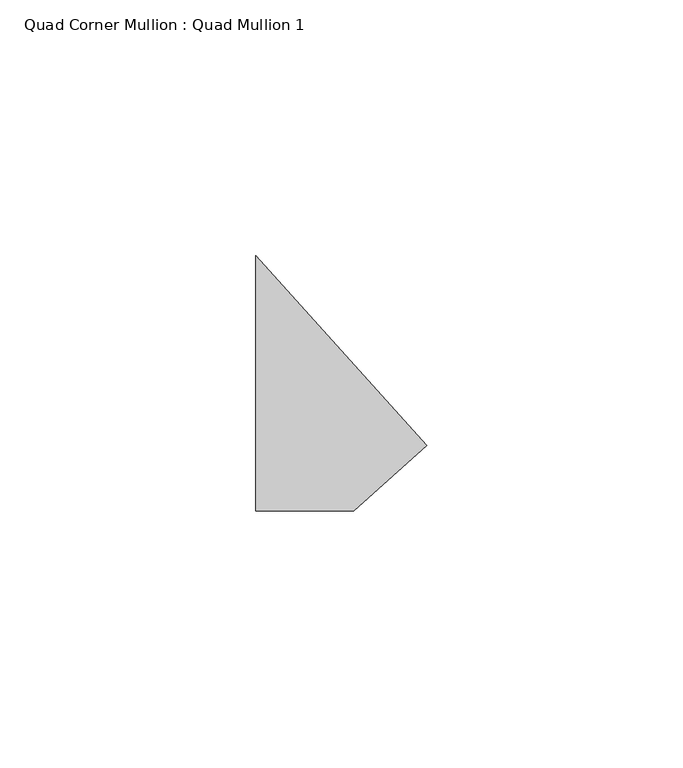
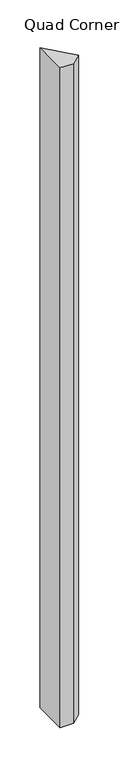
"""IFC4 building model written with IfcOpenShell, lengths in millimetres: member geometry, Quad Corner Mullion : Quad Mullion 1."""

import ifcopenshell
import ifcopenshell.guid

model = None  # the IFC model being written
_history = None  # IfcOwnerHistory: only IFC2X3 demands one
_inside = {}  # id of a spatial element -> (the spatial element, [elements in it])
_under = {}  # id of a project, library or spatial element -> (it, [spatial elements below it])
_declared = {}  # id of a project -> (the project, [libraries it declares])
_typed = {}  # id of a type object -> (the type object, [elements of that type])
_made_of = {}  # id of a material, layer set ... -> (it, [elements and type objects made of it])


def new_model(schema):
    """Start an empty IFC model of exactly this schema.

    Asked for "IFC4X3", IfcOpenShell would pick the latest addendum, in which some entities
    have other attributes; the version numbers below select the first issue.
    IFC2X3 requires an IfcOwnerHistory on every rooted entity: one is made here for all.
    """
    global model, _history
    if schema == "IFC4X3":
        model = ifcopenshell.file(schema_version=(4, 3, 0, 0))
    else:
        model = ifcopenshell.file(schema=schema)
    _inside.clear()
    _under.clear()
    _declared.clear()
    _typed.clear()
    _made_of.clear()
    _history = None
    if model.schema == "IFC2X3":
        org = make("IfcOrganization", Name="unknown")
        user = make(
            "IfcPersonAndOrganization",
            ThePerson=make("IfcPerson", FamilyName="unknown"),
            TheOrganization=org,
        )
        app = make(
            "IfcApplication",
            ApplicationDeveloper=org,
            Version="unknown",
            ApplicationFullName="unknown",
            ApplicationIdentifier="unknown",
        )
        _history = make(
            "IfcOwnerHistory",
            OwningUser=user,
            OwningApplication=app,
            ChangeAction="ADDED",
            CreationDate=0,
        )
    return model


def make(cls, **values):
    """One entity of the class cls with the attributes given. An attribute that is None is left unset."""
    return model.create_entity(
        cls, **{name: value for name, value in values.items() if value is not None}
    )


def rooted(cls, **values):
    """An entity with a GlobalId (a new one), such as an element, a storey or a relation."""
    return make(cls, GlobalId=ifcopenshell.guid.new(), OwnerHistory=_history, **values)


def si_unit(unit_type, name, prefix=None):
    """IfcSIUnit, for example si_unit("LENGTHUNIT", "METRE", prefix="MILLI")."""
    return make("IfcSIUnit", UnitType=unit_type, Prefix=prefix, Name=name)


def assignment(units):
    """IfcUnitAssignment: the units of a project."""
    return None if units is None else make("IfcUnitAssignment", Units=units)


def point(xyz):
    """IfcCartesianPoint."""
    return None if xyz is None else make("IfcCartesianPoint", Coordinates=xyz)


def direction(xyz):
    """IfcDirection."""
    return None if xyz is None else make("IfcDirection", DirectionRatios=xyz)


def frame(location, z_axis=None, x_axis=None):
    """IfcAxis2Placement3D, a coordinate frame: its origin and axes. An axis left out is left unset."""
    return make(
        "IfcAxis2Placement3D",
        Location=point(location),
        Axis=direction(z_axis),
        RefDirection=direction(x_axis),
    )


def origin():
    """The frame at (0, 0, 0) with its axes left unset."""
    return frame((0.0, 0.0, 0.0))


def place(relative_to, where):
    """IfcLocalPlacement: puts the frame where relative to a parent placement (None: the world)."""
    return make(
        "IfcLocalPlacement", PlacementRelTo=relative_to, RelativePlacement=where
    )


def context(
    kind, dimensions, precision=None, world=None, true_north=None, identifier=None
):
    """IfcGeometricRepresentationContext, for example the 3D "Model" context."""
    return make(
        "IfcGeometricRepresentationContext",
        ContextIdentifier=identifier,
        ContextType=kind,
        CoordinateSpaceDimension=dimensions,
        Precision=precision,
        WorldCoordinateSystem=world,
        TrueNorth=true_north,
    )


def project(units=None, contexts=None):
    """IfcProject with its units and contexts."""
    return rooted(
        "IfcProject",
        Name="project",
        RepresentationContexts=contexts,
        UnitsInContext=assignment(units),
    )


def spatial(cls, under=None, at=None, **own):
    """A site, building, storey or space (cls), placed at a placement, below another one or the project."""
    s = rooted(cls, ObjectPlacement=at, **own)
    if under is not None:
        _under.setdefault(under.id(), (under, []))[1].append(s)
    return s


def polyline(points):
    """IfcPolyline through the points."""
    return make("IfcPolyline", Points=[point(p) for p in points])


def outline(outer, holes=None, kind="AREA"):
    """IfcArbitraryClosedProfileDef: a profile drawn as a closed curve; with holes, ...WithVoids."""
    if holes is None:
        return make("IfcArbitraryClosedProfileDef", ProfileType=kind, OuterCurve=outer)
    return make(
        "IfcArbitraryProfileDefWithVoids",
        ProfileType=kind,
        OuterCurve=outer,
        InnerCurves=holes,
    )


def extrude(swept, where, along, depth):
    """IfcExtrudedAreaSolid: the profile swept, set in the frame where, extruded along a direction by depth."""
    return make(
        "IfcExtrudedAreaSolid",
        SweptArea=swept,
        Position=where,
        ExtrudedDirection=direction(along),
        Depth=depth,
    )


def shape(context_of_items, identifier, shape_type, items):
    """IfcShapeRepresentation: the items that make up one representation, for example the "Body"."""
    return make(
        "IfcShapeRepresentation",
        ContextOfItems=context_of_items,
        RepresentationIdentifier=identifier,
        RepresentationType=shape_type,
        Items=items,
    )


def source(mapping_origin, context_of_items, identifier, shape_type, items):
    """IfcRepresentationMap: a shape defined once, which mapped items show again and again."""
    return make(
        "IfcRepresentationMap",
        MappingOrigin=mapping_origin,
        MappedRepresentation=shape(context_of_items, identifier, shape_type, items),
    )


def transform(
    local_origin,
    x_axis=None,
    y_axis=None,
    z_axis=None,
    scale=None,
    scale2=None,
    scale3=None,
    uniform=True,
):
    """IfcCartesianTransformationOperator3D, or its non-uniform kind. x_axis, y_axis, z_axis: its Axis1, 2, 3."""
    if uniform:
        return make(
            "IfcCartesianTransformationOperator3D",
            Axis1=direction(x_axis),
            Axis2=direction(y_axis),
            LocalOrigin=point(local_origin),
            Scale=scale,
            Axis3=direction(z_axis),
        )
    return make(
        "IfcCartesianTransformationOperator3DnonUniform",
        Axis1=direction(x_axis),
        Axis2=direction(y_axis),
        LocalOrigin=point(local_origin),
        Scale=scale,
        Axis3=direction(z_axis),
        Scale2=scale2,
        Scale3=scale3,
    )


def mapped(mapping_source, mapping_target):
    """IfcMappedItem: shows the shape of a source again, moved by a transform."""
    return make(
        "IfcMappedItem", MappingSource=mapping_source, MappingTarget=mapping_target
    )


def made_of(thing, what):
    """Note that an element or type object is made of a material, layer set ...; save() writes the relation."""
    if what is not None:
        _made_of.setdefault(what.id(), (what, []))[1].append(thing)
    return thing


def element(
    cls,
    number,
    at=None,
    inside=None,
    cuts=None,
    type_object=None,
    material=None,
    context=None,
    identifier="Body",
    shape_type=None,
    held_by="IfcProductDefinitionShape",
    body=None,
    shapes=None,
    **own,
):
    """One element of the class cls, such as IfcWall. Its Tag is "e" and its number.

    at: its placement. inside: the storey or other place that contains it. cuts: it is an
    opening in that element (IfcRelVoidsElement). A single representation is given by context,
    identifier, shape_type and body (its items); several are given by shapes. held_by: the class
    of the entity that holds the representations. save() writes the other relations.
    """
    e = rooted(cls, Tag="e%d" % number, ObjectPlacement=at, **own)
    if body is not None:
        shapes = [shape(context, identifier, shape_type, body)]
    if shapes is not None:
        e.Representation = make(held_by, Representations=shapes)
    if inside is not None:
        _inside.setdefault(inside.id(), (inside, []))[1].append(e)
    if cuts is not None:
        rooted(
            "IfcRelVoidsElement", RelatingBuildingElement=cuts, RelatedOpeningElement=e
        )
    if type_object is not None:
        _typed.setdefault(type_object.id(), (type_object, []))[1].append(e)
    return made_of(e, material)


def aggregate(whole, parts):
    """IfcRelAggregates: a whole, such as a stair, and the parts it consists of."""
    return rooted("IfcRelAggregates", RelatingObject=whole, RelatedObjects=parts)


def save(model, path):
    """Write the relations noted so far, then the file.

    IfcRelAggregates (storeys below a building ...), IfcRelContainedInSpatialStructure (elements
    in a storey), IfcRelDefinesByType, IfcRelAssociatesMaterial and IfcRelDeclares: one each for
    every whole, place, type object, material and project.
    """
    for whole, parts in _under.values():
        aggregate(whole, parts)
    for where, things in _inside.values():
        rooted(
            "IfcRelContainedInSpatialStructure",
            RelatedElements=things,
            RelatingStructure=where,
        )
    for kind, things in _typed.values():
        rooted("IfcRelDefinesByType", RelatedObjects=things, RelatingType=kind)
    for what, things in _made_of.values():
        rooted("IfcRelAssociatesMaterial", RelatedObjects=things, RelatingMaterial=what)
    for by, libraries in _declared.values():
        rooted("IfcRelDeclares", RelatingContext=by, RelatedDefinitions=libraries)
    model.write(path)


def quad_corner_mullion_quad_mullion_1_90cd1d7e(model_context):
    return source(origin(), model_context, "Body", "SweptSolid", [
        extrude(outline(polyline([(23.8599294, -12.1572413), (9.5966009, -25.0), (-9.5966009, -25.0), (-9.5966009, 25.0), (23.8599294, -12.1572413)])), frame((0.0, 0.0, -1000.0), z_axis=(0.0, 0.0, 1.0), x_axis=(1.0, 0.0, 0.0)), (0.0, 0.0, 1.0), 1000.0),
    ])


if __name__ == "__main__":
    model = new_model("IFC4")
    model_context = context("Model", 3, world=origin())
    ifc_project = project(units=[si_unit("LENGTHUNIT", "METRE", prefix="MILLI")], contexts=[model_context])
    site = spatial("IfcSite", under=ifc_project)
    building = spatial("IfcBuilding", under=site)
    placement = place(None, origin())
    quad_corner_mullion_quad_mullion_1_shape = quad_corner_mullion_quad_mullion_1_90cd1d7e(model_context)
    element("IfcMember", 1, ObjectType="Quad Corner Mullion : Quad Mullion 1", at=placement, inside=building, context=model_context, shape_type="MappedRepresentation", body=[
        mapped(quad_corner_mullion_quad_mullion_1_shape, transform((0.0, 0.0, 0.0), x_axis=(1.0, 0.0, 0.0), y_axis=(0.0, 1.0, 0.0), z_axis=(0.0, 0.0, 1.0))),
    ])
    save(model, "model.ifc")
